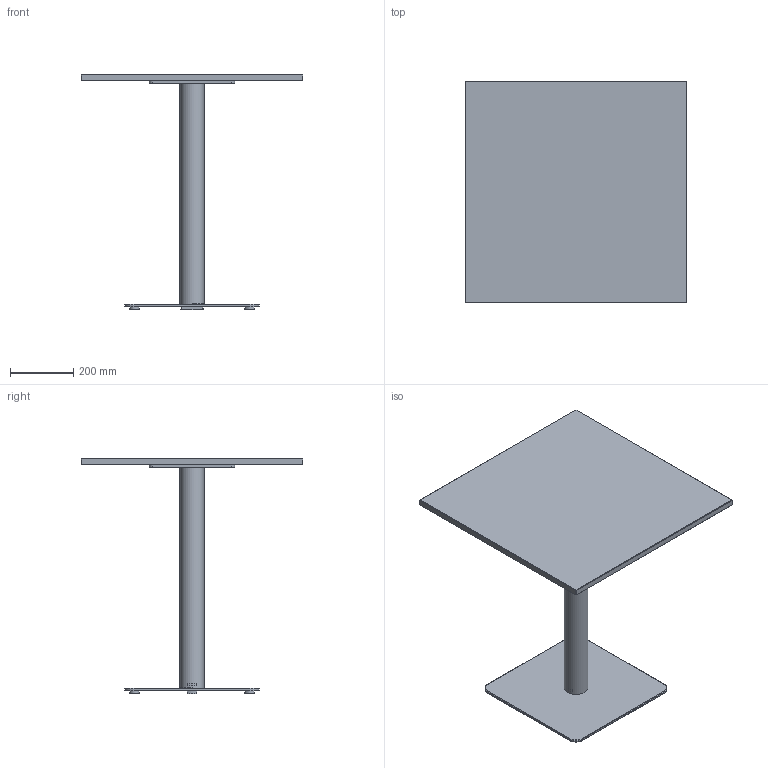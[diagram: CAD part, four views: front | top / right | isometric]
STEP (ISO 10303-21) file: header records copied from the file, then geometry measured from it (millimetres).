
FILE_DESCRIPTION( ('This file contains a STEP AP42 implementation' ,'as created by ZW3D STEP Interface translator.') ,'2;1' );
FILE_NAME( 'Henri - B_Carré - F4 - M1 - 700 x 700 x 750.stp' ,'24 912.172035', (''), ('ZWCAD Software Co.'), 'Version 1.0', 'ZW3D to STEP translator', '' );
FILE_SCHEMA(('AUTOMOTIVE_DESIGN { 1 0 10303 214 1 1 1 1 }'));
Length unit declared in the file: millimetre
Products named in the file (14): 0; PIED BISTROT PARAMETRIQUE_; COLONNE ACIER Ø76 V.02_; TUB-D076-02_; PLA-R76B-01_; CROIX ACIER 370 V.02_; CRX-X370-02_; SOCLE ACIER L 425x425 V.02_; SCL-R425-02_; PLA-R30A-01_; PLA-R30A-01; WUERTH 0276063020 Euro-screw 6.3x2 Verzinkt_; PLATEAU BISTROT PARAMETRIQUE_; insert_m6_13_
Assembly tree (22 placements, depth 3):
  0
  PIED BISTROT PARAMETRIQUE_
    COLONNE ACIER Ø76 V.02_
      TUB-D076-02_
      PLA-R76B-01_  x2
    CROIX ACIER 370 V.02_
      CRX-X370-02_
    SOCLE ACIER L 425x425 V.02_
      SCL-R425-02_
      PLA-R30A-01_
      PLA-R30A-01  x3
    WUERTH 0276063020 Euro-screw 6.3x2 Verzinkt_
    PLATEAU BISTROT PARAMETRIQUE_
      insert_m6_13_  x8
Bounding box: 700 x 700 x 744 mm (x, y, z)
Volume: 12171506 mm3; surface area: 1924340.4 mm2
Topology: 19 solids, 19 shells, 537 faces, 1310 edges, 814 vertices
Faces by surface type: plane 262, bspline 129, cylinder 98, cone 47, torus 1
Full cylindrical faces by diameter (mm): 4.88 x1, 6 x8, 6.3 x1, 8 x45, 12 x2, 14 x2, 30 x4, 72 x1, 76 x1
Entity records: 12222 total; most frequent: CARTESIAN_POINT 3436, ORIENTED_EDGE 1608, DIRECTION 1471, EDGE_CURVE 804, VECTOR 513, LINE 513, VERTEX_POINT 510, AXIS2_PLACEMENT_3D 479
